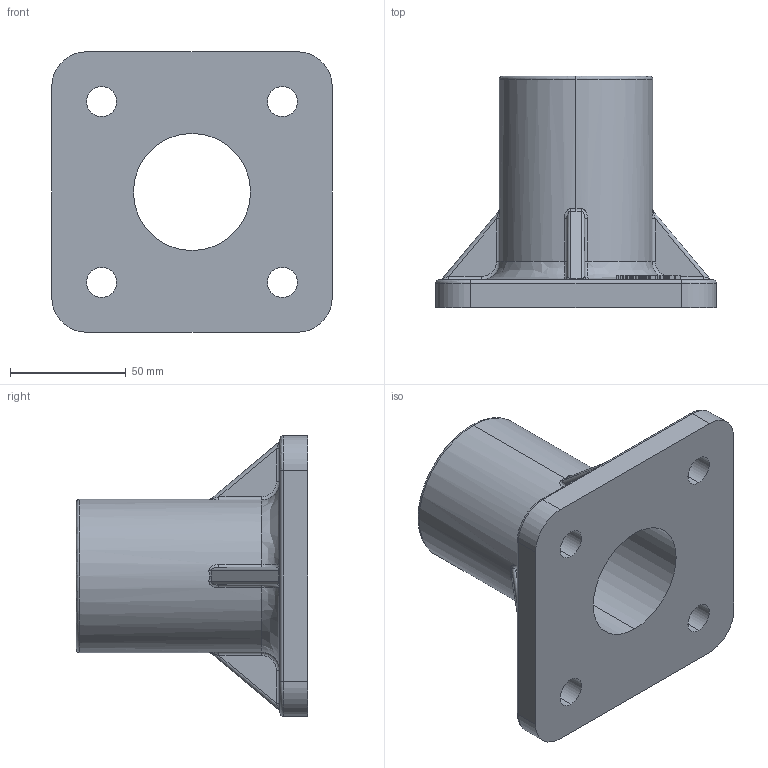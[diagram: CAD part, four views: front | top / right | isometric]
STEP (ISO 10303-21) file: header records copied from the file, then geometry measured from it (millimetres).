
FILE_DESCRIPTION (( 'STEP AP203' ), '1' );
FILE_NAME ('RAILEX STANDARD RXR-WMB.STEP', '2021-06-17T15:40:56', ( '' ), ( '' ), 'SwSTEP 2.0', 'SolidWorks 2020', '' );
FILE_SCHEMA (( 'CONFIG_CONTROL_DESIGN' ));
Length unit declared in the file: millimetre
Products named in the file (1): RAILEX STANDARD RXR-WMB
Bounding box: 121 x 99.9 x 121 mm (x, y, z)
Volume: 283993.9 mm3; surface area: 66890.3 mm2
Topology: 1 solids, 1 shells, 365 faces, 951 edges, 614 vertices
Faces by surface type: plane 188, bspline 123, cylinder 52, cone 2
Entity records: 17016 total; most frequent: CARTESIAN_POINT 8764, ORIENTED_EDGE 1902, DIRECTION 1309, EDGE_CURVE 951, VERTEX_POINT 614, LINE 607, VECTOR 607, EDGE_LOOP 401
